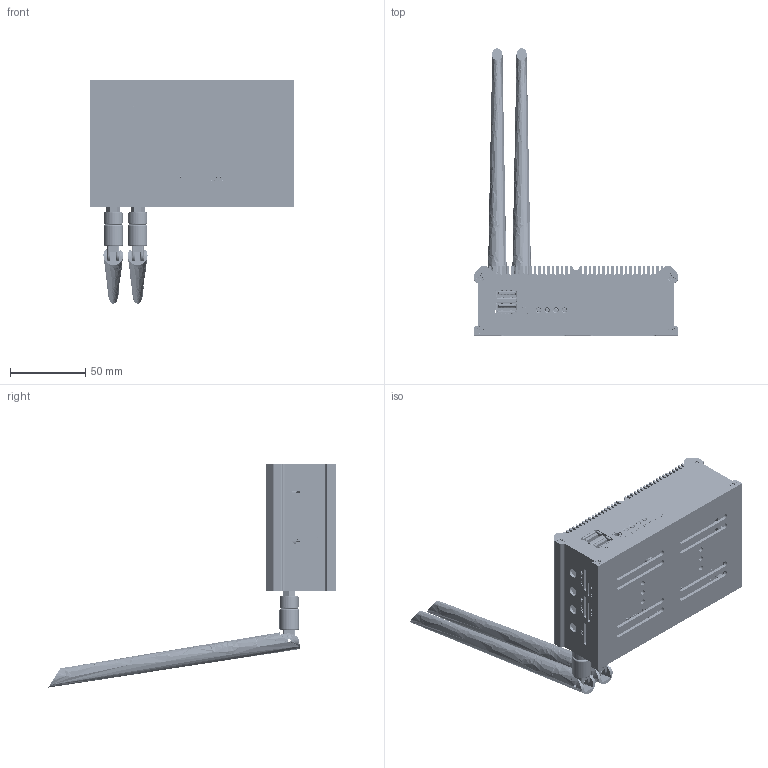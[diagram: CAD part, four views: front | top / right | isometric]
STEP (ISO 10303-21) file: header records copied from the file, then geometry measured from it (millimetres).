
FILE_DESCRIPTION (( 'STEP AP214' ), '1' );
FILE_NAME ('LubanCat 5-俋褲3D恅璃-20240911.STEP', '2024-09-11T09:02:18', ( '' ), ( '' ), 'SwSTEP 2.0', 'SolidWorks 2023', '' );
FILE_SCHEMA (( 'AUTOMOTIVE_DESIGN' ));
Length unit declared in the file: millimetre
Products named in the file (48): 边三脚侧插侧按按键254gf; 贴片螺柱M3x3.5; 鲁班猫5板图; 侧贴片红灯; cross recessed countersunk head screws gb1_GB_CROSS_SCREWS_TYPE4 M3X5-3.35  H type-S; 鲁班猫5 L型外壳前盖-20240819; ZH 2P 插件1.5MM; 鲁班猫5 L型外壳 上主体; cross recessed ctsk head tapping screws gb_GB_CROSS_SCREWS_TYPE129 ST2.2X16 H C-S; 72r3759_2007435; 贴片螺柱M2x3; 双层HDMI块; 红外窗口; User Library-Micro_SD_Socket_Push-push; 散热器; 零件4^User Library-pj-393-8; 鲁班猫5 L型外壳后盖-20240819; M.2-11+22针角 4.8高; 鲁班猫5装配图; cross recessed cheese head screws gb_GB_CROSS_SCREWS_TYPE2 M3X5-5  H type-S; 1.25X2pin; x05a20l24t; 4010风扇反; User Library-pj-393-8_PJ-393-8_2; 长天线; USB3.0+2.0卷边座子 零件; M3x9+3; 零件3^User Library-pj-393-8; 双层HDMI; User Library-pj-393-8; HR911130A; LubanCat 5-外壳3D文件-20240911; 4010风扇散热片; 20X2; x05a20l30t; User Library-USB-TYPE-C20; User Library-DC044A; 鲁班猫5 L型外壳 下主体; User Library-pj-393-8_PJ-393-8_4; USB2.0双层卷边 零件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
Assembly tree (83 placements, depth 4):
  零件3^User Library-pj-393-8
  LubanCat 5-外壳3D文件-20240911
    鲁班猫5装配图
      鲁班猫5板图
      User Library-USB-TYPE-C20
      USB3.0+2.0卷边座子 零件
      User Library-DC044A
      20X2
      User Library-pj-393-8
        User Library-pj-393-8_PJ-393-8_1
        User Library-pj-393-8_PJ-393-8_2  x4
        User Library-pj-393-8_PJ-393-8_4  x3
        零件4^User Library-pj-393-8
      USB2.0双层卷边 零件
      边三脚侧插侧按按键254gf  x4
      72r3759_2007435
      HR911130A  x2
      IRM-v838M3 红外贴片
      ZH 2P 插件1.5MM
      1.25X2pin
      3PIN
      PCIE-52P56H
      A2001WV-2P
      x05a20l30t  x3
      x05a20l24t  x6
      双层HDMI
        双层HDMI块
        HDMI  x2
      User Library-Micro_SD_Socket_Push-push
      SIM卡mini
      M.2-4+29针角 4.75高
      M.2-11+22针角 4.8高
      贴片螺柱M3x3.5  x2
      贴片螺柱M2x3  x2
      侧贴片红灯  x2
    长天线  x2
    散热器
      4010风扇散热片
      4010风扇反
      cross recessed ctsk head tapping screws gb_GB_CROSS_SCREWS_TYPE129 ST2.2X16 H C-S  x4
    红外窗口
    鲁班猫5 L型外壳 上主体
    鲁班猫5 L型外壳 下主体
    M3x9+3  x4
    鲁班猫5 L型外壳前盖-20240819
    鲁班猫5 L型外壳后盖-20240819
    cross recessed countersunk head screws gb1_GB_CROSS_SCREWS_TYPE4 M3X5-3.35  H type-S  x8
    cross recessed cheese head screws gb_GB_CROSS_SCREWS_TYPE2 M3X5-5  H type-S  x4
Bounding box: 135.33 x 191.64 x 148.89 mm (x, y, z)
Volume: 196208.7 mm3; surface area: 207466.1 mm2
Topology: 336 solids, 430 shells, 26371 faces, 72693 edges, 47022 vertices
Faces by surface type: plane 17983, cylinder 4870, bspline 2207, cone 1115, torus 153, sphere 43
Entity records: 623527 total; most frequent: CARTESIAN_POINT 183534, ORIENTED_EDGE 96304, DIRECTION 79532, EDGE_CURVE 48260, VECTOR 36932, LINE 36932, VERTEX_POINT 31498, AXIS2_PLACEMENT_3D 21300
